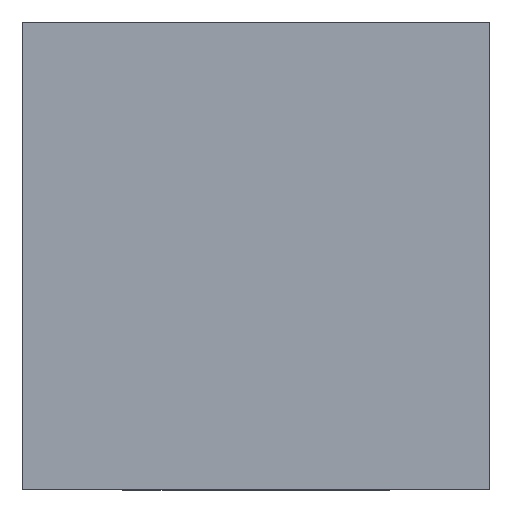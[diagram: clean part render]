
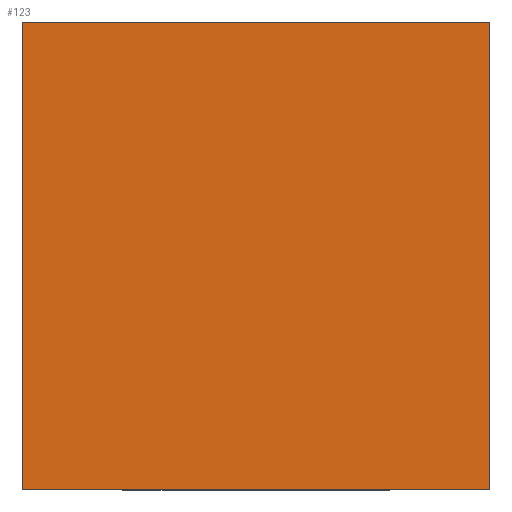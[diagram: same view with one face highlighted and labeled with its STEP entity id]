
A CAD part, top view. The second image highlights one B-rep face of the part: STEP entity #123.
In plain terms, the highlighted planar face has unit normal (0, 0, 1).
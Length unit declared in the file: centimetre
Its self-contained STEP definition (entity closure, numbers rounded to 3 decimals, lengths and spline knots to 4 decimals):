
#4 = CARTESIAN_POINT ( 'NONE',  ( 0., 0., 1000. ) ) ;
#11 = PLANE ( 'NONE',  #323 ) ;
#35 = DIRECTION ( 'NONE',  ( 1., 0., 0. ) ) ;
#63 = DIRECTION ( 'NONE',  ( 0., 1., 0. ) ) ;
#90 = CARTESIAN_POINT ( 'NONE',  ( 0., 1000., 1000. ) ) ;
#123 = ADVANCED_FACE ( 'NONE', ( #1164 ), #11, .T. ) ;
#137 = VECTOR ( 'NONE', #63, 100. ) ;
#196 = CARTESIAN_POINT ( 'NONE',  ( 0., 1000., 1000. ) ) ;
#216 = DIRECTION ( 'NONE',  ( 1., 0., 0. ) ) ;
#265 = LINE ( 'NONE', #988, #1134 ) ;
#275 = CARTESIAN_POINT ( 'NONE',  ( 1000., 1000., 1000. ) ) ;
#290 = EDGE_LOOP ( 'NONE', ( #1199, #627, #502, #1146 ) ) ;
#311 = VERTEX_POINT ( 'NONE', #995 ) ;
#323 = AXIS2_PLACEMENT_3D ( 'NONE', #328, #1170, #216 ) ;
#328 = CARTESIAN_POINT ( 'NONE',  ( 0., 0., 1000. ) ) ;
#421 = LINE ( 'NONE', #840, #623 ) ;
#471 = CARTESIAN_POINT ( 'NONE',  ( 1000., 1000., 1000. ) ) ;
#502 = ORIENTED_EDGE ( 'NONE', *, *, #812, .T. ) ;
#551 = DIRECTION ( 'NONE',  ( 0., -1., 0. ) ) ;
#591 = EDGE_CURVE ( 'NONE', #1136, #1237, #421, .T. ) ;
#623 = VECTOR ( 'NONE', #551, 100. ) ;
#627 = ORIENTED_EDGE ( 'NONE', *, *, #748, .T. ) ;
#649 = VECTOR ( 'NONE', #1357, 100. ) ;
#748 = EDGE_CURVE ( 'NONE', #1237, #311, #265, .T. ) ;
#809 = VERTEX_POINT ( 'NONE', #471 ) ;
#812 = EDGE_CURVE ( 'NONE', #311, #809, #892, .T. ) ;
#840 = CARTESIAN_POINT ( 'NONE',  ( 0., 1000., 1000. ) ) ;
#873 = EDGE_CURVE ( 'NONE', #809, #1136, #1254, .T. ) ;
#892 = LINE ( 'NONE', #275, #137 ) ;
#988 = CARTESIAN_POINT ( 'NONE',  ( 0., 0., 1000. ) ) ;
#995 = CARTESIAN_POINT ( 'NONE',  ( 1000., 0., 1000. ) ) ;
#1134 = VECTOR ( 'NONE', #35, 100. ) ;
#1136 = VERTEX_POINT ( 'NONE', #90 ) ;
#1146 = ORIENTED_EDGE ( 'NONE', *, *, #873, .T. ) ;
#1164 = FACE_OUTER_BOUND ( 'NONE', #290, .T. ) ;
#1170 = DIRECTION ( 'NONE',  ( 0., 0., 1. ) ) ;
#1199 = ORIENTED_EDGE ( 'NONE', *, *, #591, .T. ) ;
#1237 = VERTEX_POINT ( 'NONE', #4 ) ;
#1254 = LINE ( 'NONE', #196, #649 ) ;
#1357 = DIRECTION ( 'NONE',  ( -1., 0., 0. ) ) ;
